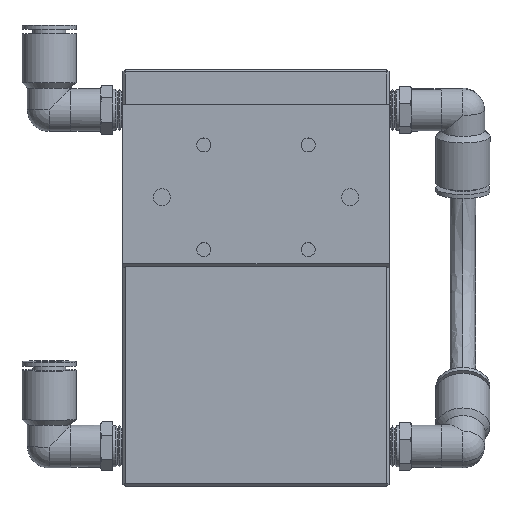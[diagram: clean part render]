
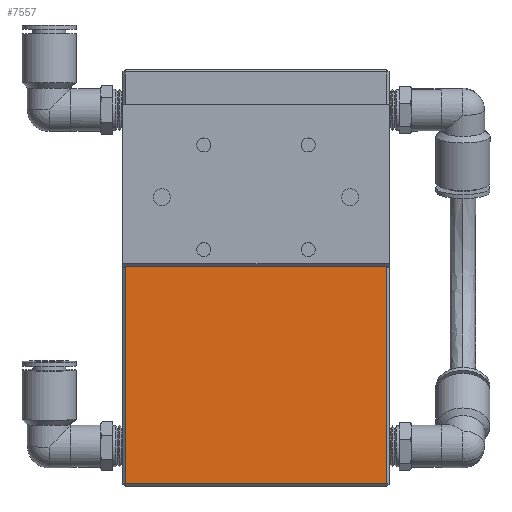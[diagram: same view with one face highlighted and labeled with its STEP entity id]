
A CAD part, top view. The second image highlights one B-rep face of the part: STEP entity #7557.
In plain terms, the highlighted planar face has unit normal (0, 0, 1).
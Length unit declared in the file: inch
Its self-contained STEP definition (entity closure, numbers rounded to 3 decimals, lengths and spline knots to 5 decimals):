
#39 = VECTOR ( 'NONE', #8074, 39.37008 ) ;
#345 = VERTEX_POINT ( 'NONE', #6298 ) ;
#633 = DIRECTION ( 'NONE',  ( -1., 0., 0. ) ) ;
#927 = CARTESIAN_POINT ( 'NONE',  ( 1.215, -0.95016, -0.01926 ) ) ;
#1123 = EDGE_CURVE ( 'NONE', #345, #5864, #6504, .T. ) ;
#1327 = LINE ( 'NONE', #7353, #39 ) ;
#1658 = CARTESIAN_POINT ( 'NONE',  ( -1.215, -2.97616, -0.01926 ) ) ;
#1680 = EDGE_CURVE ( 'NONE', #7587, #4306, #1327, .T. ) ;
#2244 = CARTESIAN_POINT ( 'NONE',  ( -1.24, -3.00116, -0.01926 ) ) ;
#3354 = VECTOR ( 'NONE', #9286, 39.37008 ) ;
#3551 = ORIENTED_EDGE ( 'NONE', *, *, #4896, .T. ) ;
#3869 = FACE_OUTER_BOUND ( 'NONE', #6770, .T. ) ;
#4115 = CARTESIAN_POINT ( 'NONE',  ( 1.215, -2.97616, -0.01926 ) ) ;
#4159 = EDGE_CURVE ( 'NONE', #4306, #5864, #4968, .T. ) ;
#4306 = VERTEX_POINT ( 'NONE', #4115 ) ;
#4731 = ORIENTED_EDGE ( 'NONE', *, *, #1680, .T. ) ;
#4757 = DIRECTION ( 'NONE',  ( 0., 1., 0. ) ) ;
#4841 = CARTESIAN_POINT ( 'NONE',  ( -1.215, -3.00116, -0.01926 ) ) ;
#4896 = EDGE_CURVE ( 'NONE', #345, #7587, #5630, .T. ) ;
#4968 = LINE ( 'NONE', #6802, #7724 ) ;
#5041 = DIRECTION ( 'NONE',  ( 0., 0., -1. ) ) ;
#5168 = PLANE ( 'NONE',  #8247 ) ;
#5352 = VECTOR ( 'NONE', #7969, 39.37008 ) ;
#5399 = ORIENTED_EDGE ( 'NONE', *, *, #1123, .F. ) ;
#5630 = LINE ( 'NONE', #4841, #3354 ) ;
#5864 = VERTEX_POINT ( 'NONE', #927 ) ;
#6298 = CARTESIAN_POINT ( 'NONE',  ( -1.215, -0.95016, -0.01926 ) ) ;
#6504 = LINE ( 'NONE', #7765, #5352 ) ;
#6556 = ORIENTED_EDGE ( 'NONE', *, *, #4159, .T. ) ;
#6770 = EDGE_LOOP ( 'NONE', ( #4731, #6556, #5399, #3551 ) ) ;
#6802 = CARTESIAN_POINT ( 'NONE',  ( 1.215, -0.95016, -0.01926 ) ) ;
#7353 = CARTESIAN_POINT ( 'NONE',  ( -1.24, -2.97616, -0.01926 ) ) ;
#7557 = ADVANCED_FACE ( 'NONE', ( #3869 ), #5168, .F. ) ;
#7587 = VERTEX_POINT ( 'NONE', #1658 ) ;
#7724 = VECTOR ( 'NONE', #4757, 39.37008 ) ;
#7765 = CARTESIAN_POINT ( 'NONE',  ( -1.24, -0.95016, -0.01926 ) ) ;
#7969 = DIRECTION ( 'NONE',  ( 1., 0., 0. ) ) ;
#8074 = DIRECTION ( 'NONE',  ( 1., 0., 0. ) ) ;
#8247 = AXIS2_PLACEMENT_3D ( 'NONE', #2244, #5041, #633 ) ;
#9286 = DIRECTION ( 'NONE',  ( 0., -1., 0. ) ) ;
